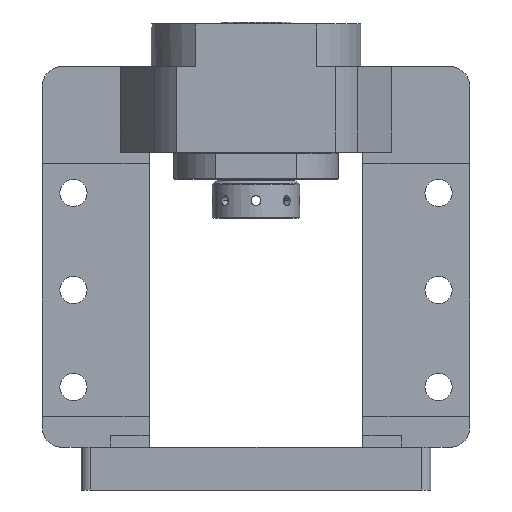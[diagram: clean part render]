
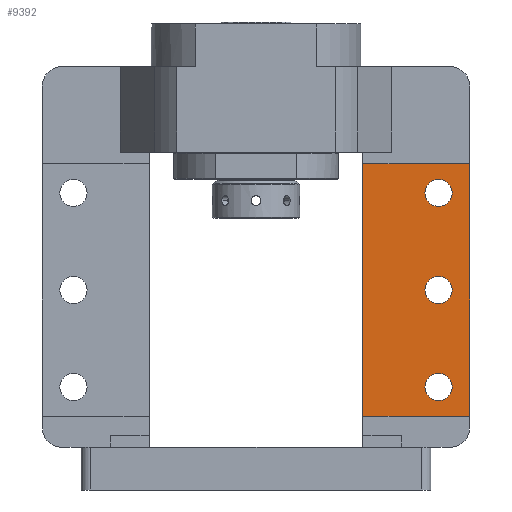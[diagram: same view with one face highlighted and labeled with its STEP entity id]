
A CAD part, front view. The second image highlights one B-rep face of the part: STEP entity #9392.
In plain terms, the highlighted planar face has unit normal (0, -1, 0).
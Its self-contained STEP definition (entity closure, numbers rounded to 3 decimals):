
#276 = VERTEX_POINT ( 'NONE', #3253 ) ;
#336 = CARTESIAN_POINT ( 'NONE',  ( 110., 0., 225. ) ) ;
#374 = CARTESIAN_POINT ( 'NONE',  ( 94., 0., 53. ) ) ;
#510 = EDGE_CURVE ( 'NONE', #13867, #13171, #10635, .T. ) ;
#534 = CARTESIAN_POINT ( 'NONE',  ( 110., 0., 168. ) ) ;
#772 = CARTESIAN_POINT ( 'NONE',  ( 55., 0., 168. ) ) ;
#1130 = DIRECTION ( 'NONE',  ( 0., -1., 0. ) ) ;
#1488 = VERTEX_POINT ( 'NONE', #12534 ) ;
#1760 = VECTOR ( 'NONE', #8078, 1000. ) ;
#1793 = DIRECTION ( 'NONE',  ( 1., 0., 0. ) ) ;
#1827 = DIRECTION ( 'NONE',  ( 0., -1., 0. ) ) ;
#2197 = DIRECTION ( 'NONE',  ( 0., 0., -1. ) ) ;
#2941 = ORIENTED_EDGE ( 'NONE', *, *, #5952, .F. ) ;
#3092 = EDGE_CURVE ( 'NONE', #20421, #1488, #6915, .T. ) ;
#3253 = CARTESIAN_POINT ( 'NONE',  ( 94., 0., 46. ) ) ;
#3276 = DIRECTION ( 'NONE',  ( 0., 0., -1. ) ) ;
#3850 = CARTESIAN_POINT ( 'NONE',  ( 94., 0., 146. ) ) ;
#4306 = EDGE_CURVE ( 'NONE', #12686, #18085, #15455, .T. ) ;
#4917 = ORIENTED_EDGE ( 'NONE', *, *, #6570, .F. ) ;
#5480 = EDGE_LOOP ( 'NONE', ( #9309, #2941 ) ) ;
#5504 = VECTOR ( 'NONE', #1793, 1000. ) ;
#5736 = EDGE_LOOP ( 'NONE', ( #4917, #7860, #14457, #6309 ) ) ;
#5884 = EDGE_CURVE ( 'NONE', #276, #22553, #12556, .T. ) ;
#5952 = EDGE_CURVE ( 'NONE', #1488, #20421, #15705, .T. ) ;
#5996 = CARTESIAN_POINT ( 'NONE',  ( 94., 0., 96. ) ) ;
#6309 = ORIENTED_EDGE ( 'NONE', *, *, #16840, .T. ) ;
#6570 = EDGE_CURVE ( 'NONE', #22398, #12819, #14835, .T. ) ;
#6783 = FACE_BOUND ( 'NONE', #20757, .T. ) ;
#6826 = CARTESIAN_POINT ( 'NONE',  ( 110., 0., 225. ) ) ;
#6915 = CIRCLE ( 'NONE', #10264, 7. ) ;
#7016 = CIRCLE ( 'NONE', #7308, 7. ) ;
#7308 = AXIS2_PLACEMENT_3D ( 'NONE', #12731, #1827, #14580 ) ;
#7353 = FACE_BOUND ( 'NONE', #12862, .T. ) ;
#7860 = ORIENTED_EDGE ( 'NONE', *, *, #17893, .T. ) ;
#8078 = DIRECTION ( 'NONE',  ( -1., 0., 0. ) ) ;
#8080 = ORIENTED_EDGE ( 'NONE', *, *, #12152, .F. ) ;
#8286 = CARTESIAN_POINT ( 'NONE',  ( 94., 0., 53. ) ) ;
#8680 = CARTESIAN_POINT ( 'NONE',  ( 55., 0., 225. ) ) ;
#8692 = CIRCLE ( 'NONE', #13582, 7. ) ;
#9093 = AXIS2_PLACEMENT_3D ( 'NONE', #8286, #21040, #10129 ) ;
#9127 = DIRECTION ( 'NONE',  ( 0., 0., -1. ) ) ;
#9309 = ORIENTED_EDGE ( 'NONE', *, *, #3092, .F. ) ;
#9392 = ADVANCED_FACE ( 'NONE', ( #7353, #6783, #11620, #16484 ), #17759, .T. ) ;
#9525 = CARTESIAN_POINT ( 'NONE',  ( 94., 0., 103. ) ) ;
#9950 = CARTESIAN_POINT ( 'NONE',  ( 110., 0., 168. ) ) ;
#10129 = DIRECTION ( 'NONE',  ( 0., 0., -1. ) ) ;
#10264 = AXIS2_PLACEMENT_3D ( 'NONE', #9525, #22260, #11353 ) ;
#10598 = VECTOR ( 'NONE', #3276, 1000. ) ;
#10635 = CIRCLE ( 'NONE', #17897, 7. ) ;
#10871 = CARTESIAN_POINT ( 'NONE',  ( 110., 0., 38. ) ) ;
#10958 = CARTESIAN_POINT ( 'NONE',  ( 94., 0., 153. ) ) ;
#11119 = VECTOR ( 'NONE', #14912, 1000. ) ;
#11353 = DIRECTION ( 'NONE',  ( 0., 0., -1. ) ) ;
#11620 = FACE_BOUND ( 'NONE', #5480, .T. ) ;
#12040 = CARTESIAN_POINT ( 'NONE',  ( 94., 0., 103. ) ) ;
#12152 = EDGE_CURVE ( 'NONE', #13171, #13867, #7016, .T. ) ;
#12237 = ORIENTED_EDGE ( 'NONE', *, *, #510, .F. ) ;
#12534 = CARTESIAN_POINT ( 'NONE',  ( 94., 0., 110. ) ) ;
#12556 = CIRCLE ( 'NONE', #9093, 7. ) ;
#12686 = VERTEX_POINT ( 'NONE', #772 ) ;
#12731 = CARTESIAN_POINT ( 'NONE',  ( 94., 0., 153. ) ) ;
#12819 = VERTEX_POINT ( 'NONE', #15962 ) ;
#12862 = EDGE_LOOP ( 'NONE', ( #8080, #12237 ) ) ;
#13095 = DIRECTION ( 'NONE',  ( 0., -1., 0. ) ) ;
#13171 = VERTEX_POINT ( 'NONE', #3850 ) ;
#13582 = AXIS2_PLACEMENT_3D ( 'NONE', #374, #13095, #2197 ) ;
#13687 = AXIS2_PLACEMENT_3D ( 'NONE', #6826, #17604, #21403 ) ;
#13759 = ORIENTED_EDGE ( 'NONE', *, *, #13956, .F. ) ;
#13867 = VERTEX_POINT ( 'NONE', #16226 ) ;
#13869 = DIRECTION ( 'NONE',  ( 0., 0., -1. ) ) ;
#13937 = CARTESIAN_POINT ( 'NONE',  ( 94., 0., 60. ) ) ;
#13956 = EDGE_CURVE ( 'NONE', #22553, #276, #8692, .T. ) ;
#14457 = ORIENTED_EDGE ( 'NONE', *, *, #4306, .T. ) ;
#14580 = DIRECTION ( 'NONE',  ( 0., 0., -1. ) ) ;
#14835 = LINE ( 'NONE', #336, #11119 ) ;
#14912 = DIRECTION ( 'NONE',  ( 0., 0., -1. ) ) ;
#15455 = LINE ( 'NONE', #8680, #10598 ) ;
#15705 = CIRCLE ( 'NONE', #16436, 7. ) ;
#15962 = CARTESIAN_POINT ( 'NONE',  ( 110., 0., 38. ) ) ;
#16226 = CARTESIAN_POINT ( 'NONE',  ( 94., 0., 160. ) ) ;
#16436 = AXIS2_PLACEMENT_3D ( 'NONE', #12040, #1130, #13869 ) ;
#16484 = FACE_OUTER_BOUND ( 'NONE', #5736, .T. ) ;
#16840 = EDGE_CURVE ( 'NONE', #18085, #12819, #20038, .T. ) ;
#17604 = DIRECTION ( 'NONE',  ( 0., -1., 0. ) ) ;
#17759 = PLANE ( 'NONE',  #13687 ) ;
#17893 = EDGE_CURVE ( 'NONE', #22398, #12686, #21145, .T. ) ;
#17897 = AXIS2_PLACEMENT_3D ( 'NONE', #10958, #21874, #9127 ) ;
#18085 = VERTEX_POINT ( 'NONE', #21838 ) ;
#20038 = LINE ( 'NONE', #10871, #5504 ) ;
#20221 = ORIENTED_EDGE ( 'NONE', *, *, #5884, .F. ) ;
#20421 = VERTEX_POINT ( 'NONE', #5996 ) ;
#20757 = EDGE_LOOP ( 'NONE', ( #20221, #13759 ) ) ;
#21040 = DIRECTION ( 'NONE',  ( 0., -1., 0. ) ) ;
#21145 = LINE ( 'NONE', #534, #1760 ) ;
#21403 = DIRECTION ( 'NONE',  ( 0., 0., -1. ) ) ;
#21838 = CARTESIAN_POINT ( 'NONE',  ( 55., 0., 38. ) ) ;
#21874 = DIRECTION ( 'NONE',  ( 0., -1., 0. ) ) ;
#22260 = DIRECTION ( 'NONE',  ( 0., -1., 0. ) ) ;
#22398 = VERTEX_POINT ( 'NONE', #9950 ) ;
#22553 = VERTEX_POINT ( 'NONE', #13937 ) ;
